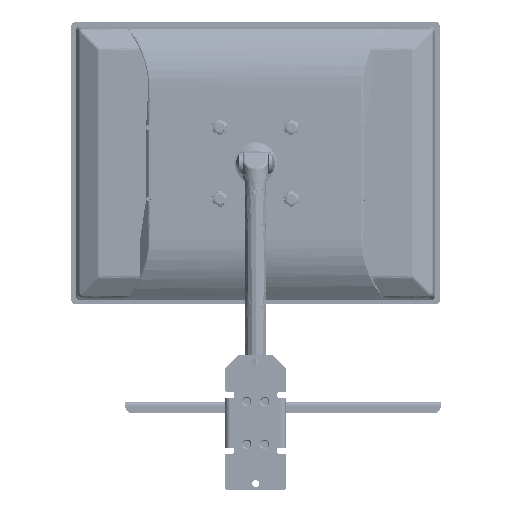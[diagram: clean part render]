
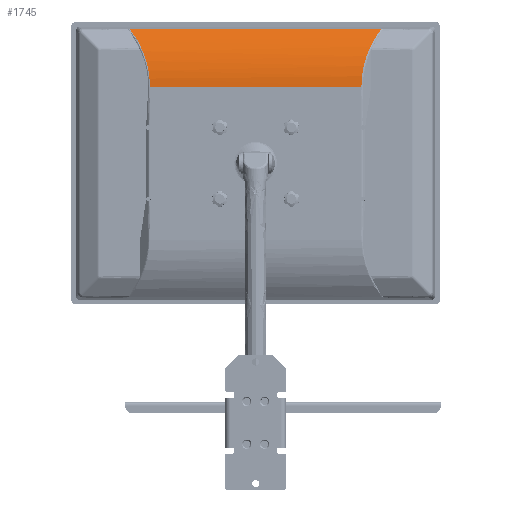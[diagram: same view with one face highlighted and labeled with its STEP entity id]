
A CAD part, left-side view. The second image highlights one B-rep face of the part: STEP entity #1745.
In plain terms, the highlighted free-form (B-spline) face has degree [2, 1] with [9, 2] control points.
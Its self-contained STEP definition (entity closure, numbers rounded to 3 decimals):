
#1745=ADVANCED_FACE('',(#3174),#24694,.T.);
#3174=FACE_OUTER_BOUND('',#4707,.T.);
#4707=EDGE_LOOP('',(#12134,#12135,#12136,#12137));
#12134=ORIENTED_EDGE('',*,*,#16257,.T.);
#12135=ORIENTED_EDGE('',*,*,#16251,.F.);
#12136=ORIENTED_EDGE('',*,*,#16388,.T.);
#12137=ORIENTED_EDGE('',*,*,#16332,.T.);
#16251=EDGE_CURVE('',#23016,#23014,#19305,.T.);
#16257=EDGE_CURVE('',#23026,#23014,#19311,.T.);
#16332=EDGE_CURVE('',#23089,#23026,#19359,.T.);
#16388=EDGE_CURVE('',#23016,#23089,#19397,.T.);
#19305=B_SPLINE_CURVE_WITH_KNOTS('',1,(#95784,#95785),.UNSPECIFIED.,.F.,
 .F.,(2,2),(0.,13.84),.UNSPECIFIED.);
#19311=B_SPLINE_CURVE_WITH_KNOTS('',3,(#95812,#95813,#95814,#95815,#95816,
#95817),.UNSPECIFIED.,.F.,.F.,(4,2,4),(-1.,-0.5,0.),
 .UNSPECIFIED.);
#19359=B_SPLINE_CURVE_WITH_KNOTS('',1,(#96067,#96068),.UNSPECIFIED.,.F.,
 .F.,(2,2),(-11.646,0.),.UNSPECIFIED.);
#19397=B_SPLINE_CURVE_WITH_KNOTS('',3,(#96291,#96292,#96293,#96294,#96295,
#96296),.UNSPECIFIED.,.F.,.F.,(4,2,4),(-1.,-0.5,0.),
 .UNSPECIFIED.);
#23014=VERTEX_POINT('',#95204);
#23016=VERTEX_POINT('',#95206);
#23026=VERTEX_POINT('',#95216);
#23089=VERTEX_POINT('',#95279);
#24694=(
BOUNDED_SURFACE()
B_SPLINE_SURFACE(2,1,((#94881,#94882),(#94883,#94884),(#94885,#94886),(#94887,
#94888),(#94889,#94890),(#94891,#94892),(#94893,#94894),(#94895,#94896),
(#94897,#94898)),.UNSPECIFIED.,.T.,.F.,.F.)
B_SPLINE_SURFACE_WITH_KNOTS((3,2,2,2,3),(2,2),(0.,1.571,3.142,
4.712,6.283),(0.,16.67),.UNSPECIFIED.)
GEOMETRIC_REPRESENTATION_ITEM()
RATIONAL_B_SPLINE_SURFACE(((1.,1.),(0.707,0.707),
(1.,1.),(0.707,0.707),(1.,1.),(0.707,
0.707),(1.,1.),(0.707,0.707),(1.,1.)))
REPRESENTATION_ITEM('')
SURFACE()
);
#94881=CARTESIAN_POINT('',(211.707,-19.952,71.438));
#94882=CARTESIAN_POINT('',(-211.707,-19.952,71.438));
#94883=CARTESIAN_POINT('',(211.707,-19.952,198.438));
#94884=CARTESIAN_POINT('',(-211.707,-19.952,198.438));
#94885=CARTESIAN_POINT('',(211.707,107.048,198.438));
#94886=CARTESIAN_POINT('',(-211.707,107.048,198.438));
#94887=CARTESIAN_POINT('',(211.707,234.048,198.438));
#94888=CARTESIAN_POINT('',(-211.707,234.048,198.438));
#94889=CARTESIAN_POINT('',(211.707,234.048,71.438));
#94890=CARTESIAN_POINT('',(-211.707,234.048,71.438));
#94891=CARTESIAN_POINT('',(211.707,234.048,-55.563));
#94892=CARTESIAN_POINT('',(-211.707,234.048,-55.563));
#94893=CARTESIAN_POINT('',(211.707,107.048,-55.563));
#94894=CARTESIAN_POINT('',(-211.707,107.048,-55.563));
#94895=CARTESIAN_POINT('',(211.707,-19.952,-55.563));
#94896=CARTESIAN_POINT('',(-211.707,-19.952,-55.563));
#94897=CARTESIAN_POINT('',(211.707,-19.952,71.438));
#94898=CARTESIAN_POINT('',(-211.707,-19.952,71.438));
#95204=CARTESIAN_POINT('',(-175.77,187.307,-26.987));
#95206=CARTESIAN_POINT('',(175.77,187.307,-26.987));
#95216=CARTESIAN_POINT('',(-147.91,107.048,-55.562));
#95279=CARTESIAN_POINT('',(147.91,107.048,-55.562));
#95784=CARTESIAN_POINT('',(175.77,187.307,-26.987));
#95785=CARTESIAN_POINT('',(-175.77,187.307,-26.987));
#95812=CARTESIAN_POINT('',(-147.91,107.048,-55.562));
#95813=CARTESIAN_POINT('',(-147.91,121.527,-55.563));
#95814=CARTESIAN_POINT('',(-150.349,136.003,-53.061));
#95815=CARTESIAN_POINT('',(-159.818,163.286,-43.349));
#95816=CARTESIAN_POINT('',(-166.849,176.085,-36.138));
#95817=CARTESIAN_POINT('',(-175.77,187.307,-26.987));
#96067=CARTESIAN_POINT('',(147.91,107.048,-55.562));
#96068=CARTESIAN_POINT('',(-147.91,107.048,-55.562));
#96291=CARTESIAN_POINT('',(175.77,187.307,-26.987));
#96292=CARTESIAN_POINT('',(166.849,176.085,-36.138));
#96293=CARTESIAN_POINT('',(159.818,163.286,-43.349));
#96294=CARTESIAN_POINT('',(150.349,136.003,-53.061));
#96295=CARTESIAN_POINT('',(147.91,121.527,-55.563));
#96296=CARTESIAN_POINT('',(147.91,107.048,-55.562));
